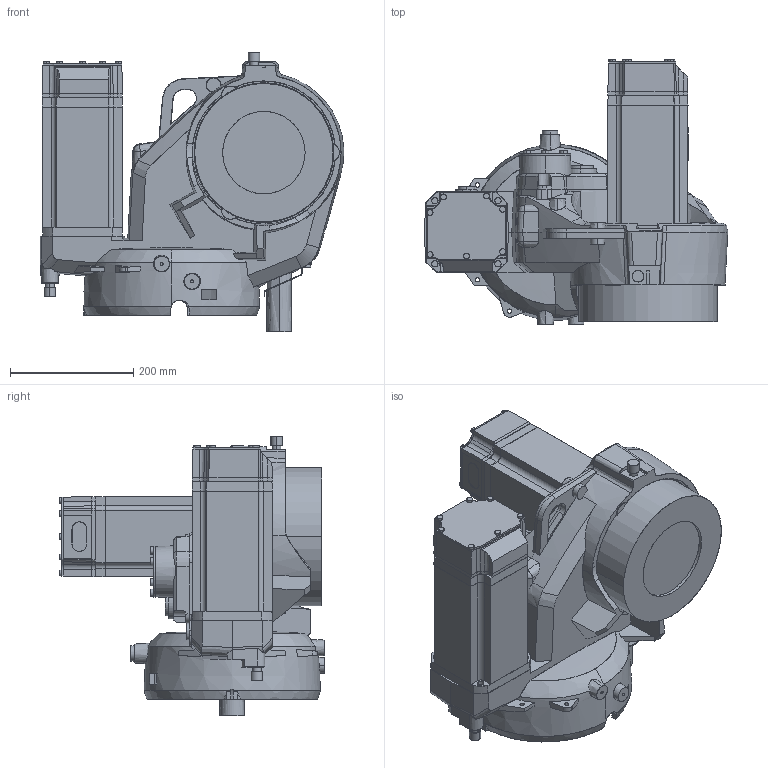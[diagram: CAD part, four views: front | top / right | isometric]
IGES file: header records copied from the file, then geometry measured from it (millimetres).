
Start section: SolidWorks IGES file using analytic representation for surfaces
Global section: file name: C:\Data\Lättmodeller\Nytt\2600\IRB2600\IRB2600_20-165_IRC5_rev00\IRB2600_20-165_IRC5_rev00_IRC5_IGES_j\IRB2600_20-165_LINK1_CAD_rev02.IGS; native system: SolidWorks 2014; preprocessor: SolidWorks 2014; author: seadbov; date: 161202.125235; units: millimetre
Bounding box: 493.33 x 430.78 x 454 mm (x, y, z)
Surface area: 1089479.2 mm2 (no closed solid volume)
Topology: 0 solids, 0 shells, 1188 faces, 14925 edges, 14923 vertices
Faces by surface type: bspline 758, revolution 430
